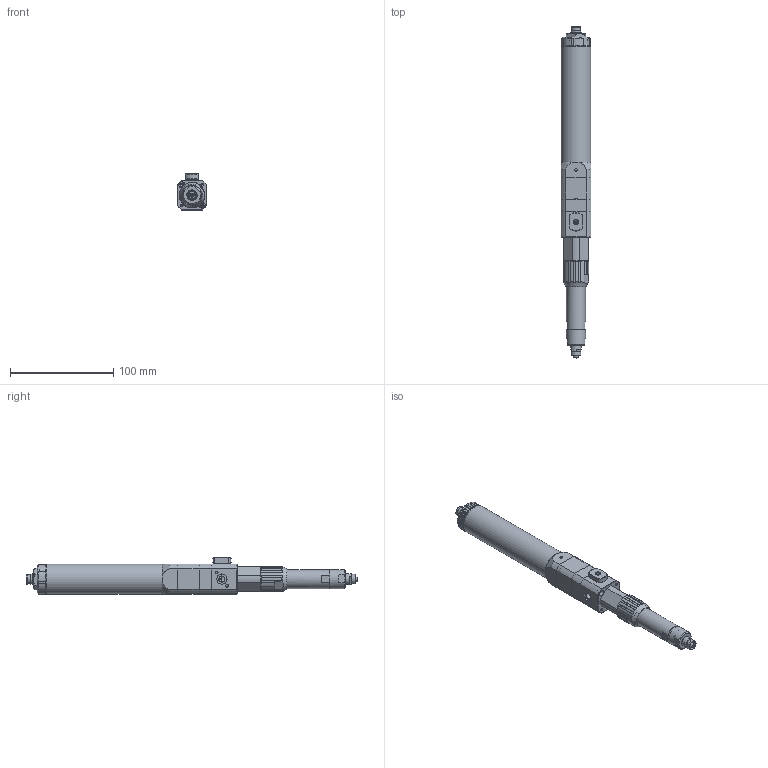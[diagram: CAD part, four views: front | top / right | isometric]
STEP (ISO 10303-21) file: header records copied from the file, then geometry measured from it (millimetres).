
FILE_DESCRIPTION (( 'STEP AP214' ), '1' );
FILE_NAME ('PCPM-1500A-SY.STEP', '2024-10-11T11:37:52', ( '' ), ( '' ), 'SwSTEP 2.0', 'SolidWorks 2024', '' );
FILE_SCHEMA (( 'AUTOMOTIVE_DESIGN' ));
Length unit declared in the file: millimetre
Products named in the file (1): PCPM-1500A-SY
Bounding box: 29 x 322 x 35 mm (x, y, z)
Volume: 85771.9 mm3; surface area: 82394.8 mm2
Topology: 29 solids, 29 shells, 1569 faces, 4064 edges, 2643 vertices
Faces by surface type: plane 928, cylinder 345, cone 188, bspline 63, sphere 32, torus 13
Full cylindrical faces by diameter (mm): 0.6 x1, 0.8 x4, 1 x5, 1.5 x3, 2 x1, 2.5 x14, 3 x2, 3.5 x15, 3.9 x1, 4 x1, 4.2 x1, 4.8 x1, 5 x1, 5.2 x1, 5.8 x7, 6 x10, 6.6 x3, 6.8 x1, 7 x1, 8 x4, 8.5 x1, 9 x4, 9.5 x1, 9.6 x2, 10 x5, 10.008 x2, 10.8 x2, 11 x1, 11.2 x1, 12 x1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
Entity records: 48844 total; most frequent: CARTESIAN_POINT 14884, ORIENTED_EDGE 6916, DIRECTION 6612, EDGE_CURVE 3458, AXIS2_PLACEMENT_3D 2644, VERTEX_POINT 2435, EDGE_LOOP 2155, FACE_OUTER_BOUND 1795
